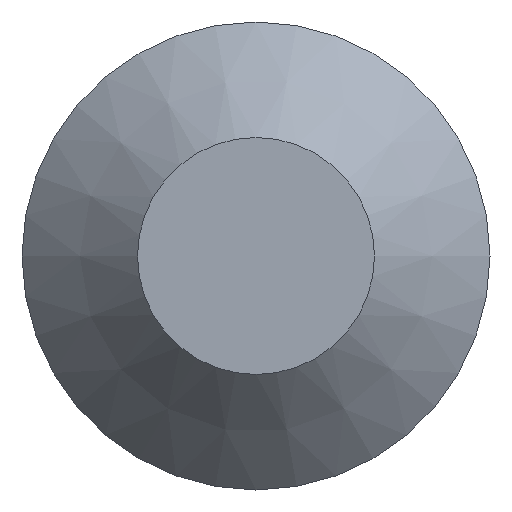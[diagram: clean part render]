
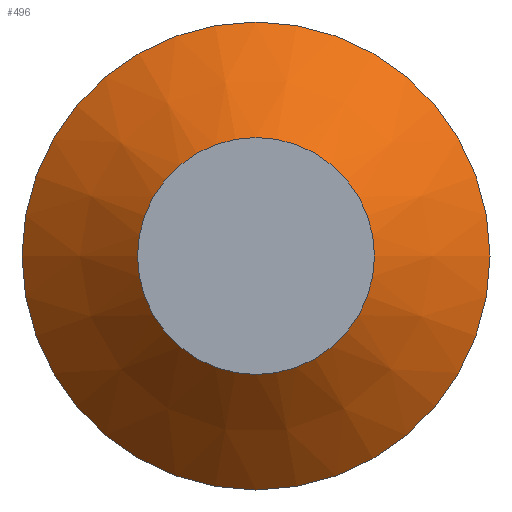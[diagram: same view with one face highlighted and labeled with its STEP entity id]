
A CAD part, front view. The second image highlights one B-rep face of the part: STEP entity #496.
In plain terms, the highlighted conical face has half-angle 45 degrees and reference radius 5.95 mm.
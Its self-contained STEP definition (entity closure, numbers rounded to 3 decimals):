
#13=CONICAL_SURFACE($,#530,5.95,45.);
#20=CIRCLE($,#529,7.9);
#21=CIRCLE($,#531,4.);
#29=FACE_BOUND($,#183,.T.);
#147=FACE_OUTER_BOUND($,#182,.T.);
#182=EDGE_LOOP($,(#454));
#183=EDGE_LOOP($,(#455));
#258=VERTEX_POINT($,#1029);
#259=VERTEX_POINT($,#1032);
#325=EDGE_CURVE($,#258,#258,#20,.T.);
#326=EDGE_CURVE($,#259,#259,#21,.T.);
#454=ORIENTED_EDGE($,*,*,#325,.T.);
#455=ORIENTED_EDGE($,*,*,#326,.F.);
#496=ADVANCED_FACE($,(#147,#29),#13,.T.);
#529=AXIS2_PLACEMENT_3D($,#1030,#623,#624);
#530=AXIS2_PLACEMENT_3D($,#1031,#625,#626);
#531=AXIS2_PLACEMENT_3D($,#1033,#627,#628);
#623=DIRECTION('center_axis',(0.,-1.,0.));
#624=DIRECTION('ref_axis',(1.,0.,0.));
#625=DIRECTION('center_axis',(0.,1.,0.));
#626=DIRECTION('ref_axis',(1.,0.,0.));
#627=DIRECTION('center_axis',(0.,-1.,0.));
#628=DIRECTION('ref_axis',(1.,0.,0.));
#1029=CARTESIAN_POINT('',(7.9,-0.75,0.));
#1030=CARTESIAN_POINT('Origin',(0.,-0.75,
0.));
#1031=CARTESIAN_POINT('Origin',(0.,-2.7,0.));
#1032=CARTESIAN_POINT('',(4.,-4.65,0.));
#1033=CARTESIAN_POINT('Origin',(0.,-4.65,0.));
